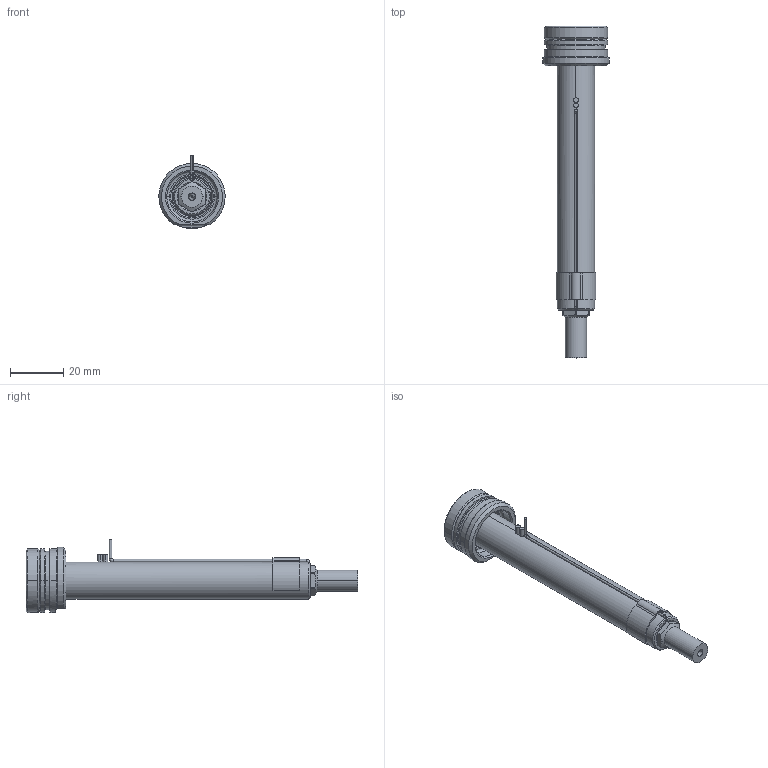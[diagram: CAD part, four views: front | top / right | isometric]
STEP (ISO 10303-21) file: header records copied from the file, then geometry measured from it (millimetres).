
FILE_DESCRIPTION((''),'2;1');
FILE_NAME('EO04_PG-FBE_WR_100_SW','2024-02-19T11:48:07',('sundharh'),(''),'CREO PARAMETRIC BY PTC INC, 2023154','CREO PARAMETRIC BY PTC INC, 2023154','');
FILE_SCHEMA(('CONFIG_CONTROL_DESIGN'));
Length unit declared in the file: millimetre
Products named in the file (1): EO04_PG-FBE_WR_100_SW
Bounding box: 24.99 x 125 x 27.5 mm (x, y, z)
Volume: 19910.2 mm3; surface area: 10202.3 mm2
Topology: 2 solids, 2 shells, 224 faces, 603 edges, 367 vertices
Faces by surface type: cylinder 84, plane 58, cone 46, torus 22, bspline 11, sphere 3
Entity records: 8283 total; most frequent: CARTESIAN_POINT 2634, DIRECTION 1227, ORIENTED_EDGE 1186, EDGE_CURVE 593, AXIS2_PLACEMENT_3D 514, VERTEX_POINT 367, CIRCLE 301, EDGE_LOOP 240
